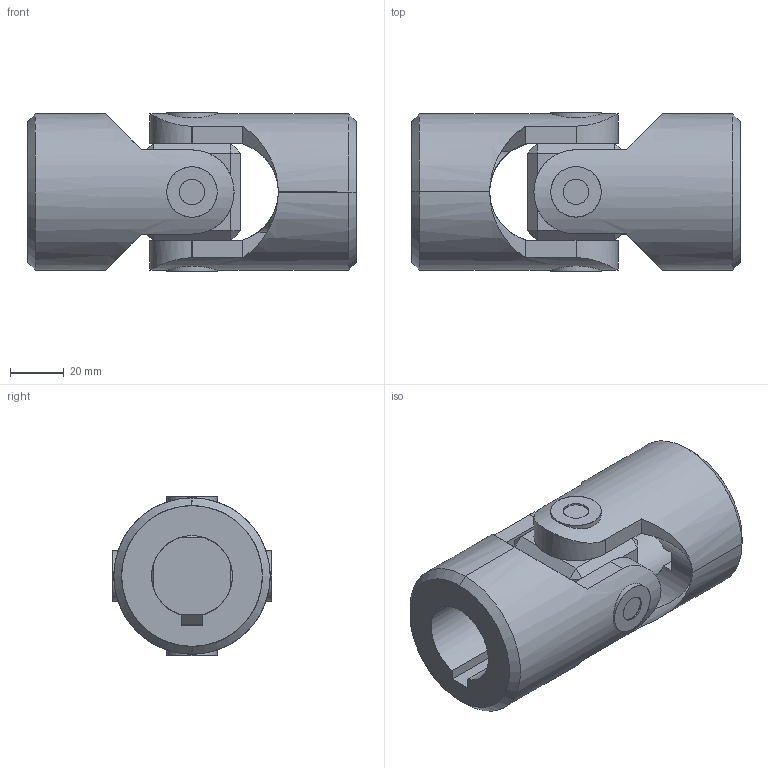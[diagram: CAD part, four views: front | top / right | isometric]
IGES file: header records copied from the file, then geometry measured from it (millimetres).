
Start section: SolidWorks IGES file using analytic representation for surfaces
Global section: file name: C:\Users\IanO\Desktop\R3690_v2\R3690_v2_20231020_IGES\R3690.030-KW.igs; native system: SolidWorks 2019; preprocessor: SolidWorks 2019; author: IanO; date: 231020.152555; units: millimetre
Bounding box: 122 x 59.16 x 59.16 mm (x, y, z)
Surface area: 54309.7 mm2 (no closed solid volume)
Topology: 0 solids, 0 shells, 110 faces, 2456 edges, 2456 vertices
Faces by surface type: bspline 62, revolution 48
